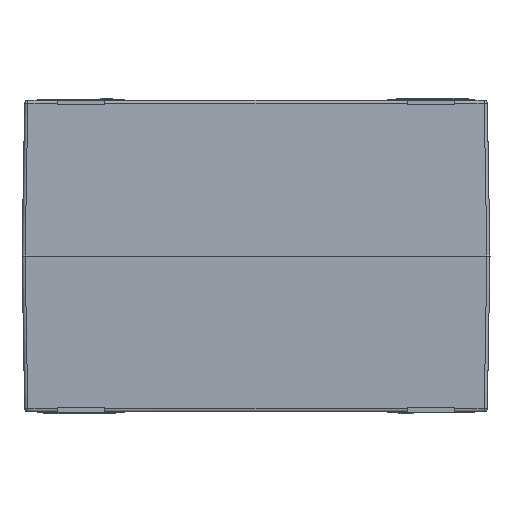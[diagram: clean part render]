
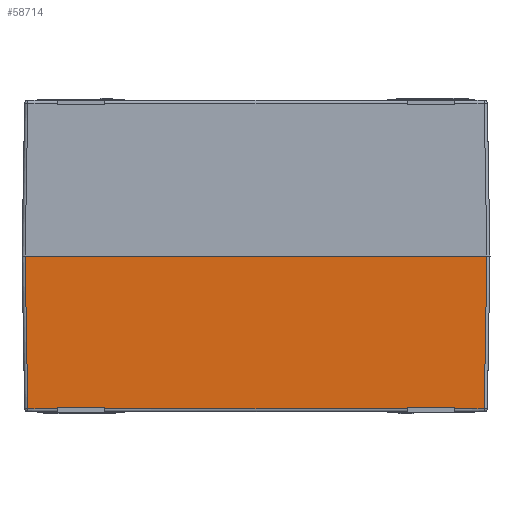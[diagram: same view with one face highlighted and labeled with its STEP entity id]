
A CAD part, front view. The second image highlights one B-rep face of the part: STEP entity #58714.
In plain terms, the highlighted planar face has unit normal (0, -1, -0.018) as drawn and (0, -1, 0.017) by its records, which use the part's own axes.
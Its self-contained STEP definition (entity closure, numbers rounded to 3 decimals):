
#2142 = ORIENTED_EDGE ( 'NONE', *, *, #48084, .F. ) ;
#2334 = EDGE_CURVE ( 'NONE', #63172, #7776, #29989, .T. ) ;
#2383 = VECTOR ( 'NONE', #61563, 1000. ) ;
#3006 = ORIENTED_EDGE ( 'NONE', *, *, #2334, .T. ) ;
#3357 = LINE ( 'NONE', #12882, #28833 ) ;
#5611 = FACE_OUTER_BOUND ( 'NONE', #29193, .T. ) ;
#6701 = DIRECTION ( 'NONE',  ( 0., -1., 0.017 ) ) ;
#7776 = VERTEX_POINT ( 'NONE', #56958 ) ;
#8056 = DIRECTION ( 'NONE',  ( -1., 0., 0. ) ) ;
#10156 = EDGE_CURVE ( 'NONE', #45520, #64153, #56703, .T. ) ;
#10654 = DIRECTION ( 'NONE',  ( 0.004, -0.017, -1. ) ) ;
#10947 = ORIENTED_EDGE ( 'NONE', *, *, #40642, .T. ) ;
#11190 = CARTESIAN_POINT ( 'NONE',  ( 48.443, -72.844, 49.017 ) ) ;
#11402 = VERTEX_POINT ( 'NONE', #11190 ) ;
#12882 = CARTESIAN_POINT ( 'NONE',  ( 75., -72.844, 49.017 ) ) ;
#13593 = ORIENTED_EDGE ( 'NONE', *, *, #27205, .T. ) ;
#14737 = CARTESIAN_POINT ( 'NONE',  ( -48.443, -72.844, 49.017 ) ) ;
#16251 = DIRECTION ( 'NONE',  ( -1., 0., 0. ) ) ;
#16725 = VERTEX_POINT ( 'NONE', #14737 ) ;
#16817 = DIRECTION ( 'NONE',  ( -1., 0., 0. ) ) ;
#16900 = VECTOR ( 'NONE', #25744, 1000. ) ;
#17283 = LINE ( 'NONE', #42232, #41196 ) ;
#17326 = ORIENTED_EDGE ( 'NONE', *, *, #64804, .T. ) ;
#17647 = VERTEX_POINT ( 'NONE', #44074 ) ;
#17668 = ORIENTED_EDGE ( 'NONE', *, *, #40736, .T. ) ;
#18951 = LINE ( 'NONE', #27307, #46088 ) ;
#19147 = CARTESIAN_POINT ( 'NONE',  ( 63.554, -72.855, 48.4 ) ) ;
#19785 = CARTESIAN_POINT ( 'NONE',  ( -73.145, -72.844, 49.017 ) ) ;
#20751 = DIRECTION ( 'NONE',  ( 0.004, -0.017, -1. ) ) ;
#20858 = LINE ( 'NONE', #57080, #46412 ) ;
#21285 = VERTEX_POINT ( 'NONE', #65879 ) ;
#21382 = CARTESIAN_POINT ( 'NONE',  ( -73.145, -72.844, 49.017 ) ) ;
#22314 = LINE ( 'NONE', #51307, #61483 ) ;
#23715 = AXIS2_PLACEMENT_3D ( 'NONE', #37209, #6701, #42365 ) ;
#25028 = LINE ( 'NONE', #19785, #52241 ) ;
#25333 = CARTESIAN_POINT ( 'NONE',  ( 75., -73.7, 0. ) ) ;
#25744 = DIRECTION ( 'NONE',  ( -0.017, 0.017, 1. ) ) ;
#26804 = CARTESIAN_POINT ( 'NONE',  ( -48.446, -72.855, 48.4 ) ) ;
#27205 = EDGE_CURVE ( 'NONE', #43983, #27531, #64553, .T. ) ;
#27307 = CARTESIAN_POINT ( 'NONE',  ( 63.554, -72.855, 48.4 ) ) ;
#27531 = VERTEX_POINT ( 'NONE', #21382 ) ;
#28382 = VECTOR ( 'NONE', #43675, 1000. ) ;
#28833 = VECTOR ( 'NONE', #57294, 1000. ) ;
#29193 = EDGE_LOOP ( 'NONE', ( #2142, #17326, #49261, #29682, #49694, #3006, #29432, #13593, #37821, #66003, #10947, #17668 ) ) ;
#29432 = ORIENTED_EDGE ( 'NONE', *, *, #58587, .F. ) ;
#29682 = ORIENTED_EDGE ( 'NONE', *, *, #44571, .T. ) ;
#29989 = LINE ( 'NONE', #53272, #28382 ) ;
#30421 = LINE ( 'NONE', #61541, #54406 ) ;
#31987 = DIRECTION ( 'NONE',  ( 0.004, 0.017, 1. ) ) ;
#32245 = DIRECTION ( 'NONE',  ( 0.004, 0.017, 1. ) ) ;
#36984 = PLANE ( 'NONE',  #23715 ) ;
#37209 = CARTESIAN_POINT ( 'NONE',  ( 75., -73.7, 0. ) ) ;
#37383 = VECTOR ( 'NONE', #8056, 1000. ) ;
#37821 = ORIENTED_EDGE ( 'NONE', *, *, #61505, .T. ) ;
#40642 = EDGE_CURVE ( 'NONE', #45520, #17647, #56021, .T. ) ;
#40668 = EDGE_CURVE ( 'NONE', #11402, #21285, #30421, .T. ) ;
#40736 = EDGE_CURVE ( 'NONE', #17647, #43498, #20858, .T. ) ;
#41196 = VECTOR ( 'NONE', #16817, 1000. ) ;
#42232 = CARTESIAN_POINT ( 'NONE',  ( 75., -72.855, 48.4 ) ) ;
#42365 = DIRECTION ( 'NONE',  ( 0., -0.017, -1. ) ) ;
#43292 = CARTESIAN_POINT ( 'NONE',  ( 75., -72.844, 49.017 ) ) ;
#43498 = VERTEX_POINT ( 'NONE', #45660 ) ;
#43675 = DIRECTION ( 'NONE',  ( -1., 0., 0. ) ) ;
#43983 = VERTEX_POINT ( 'NONE', #56563 ) ;
#44074 = CARTESIAN_POINT ( 'NONE',  ( 73.145, -72.844, 49.017 ) ) ;
#44502 = CARTESIAN_POINT ( 'NONE',  ( -48.446, -72.855, 48.4 ) ) ;
#44571 = EDGE_CURVE ( 'NONE', #11402, #16725, #3357, .T. ) ;
#45210 = DIRECTION ( 'NONE',  ( -0.017, -0.017, -1. ) ) ;
#45520 = VERTEX_POINT ( 'NONE', #63550 ) ;
#45660 = CARTESIAN_POINT ( 'NONE',  ( 63.557, -72.844, 49.017 ) ) ;
#46088 = VECTOR ( 'NONE', #32245, 1000. ) ;
#46412 = VECTOR ( 'NONE', #16251, 1000. ) ;
#48084 = EDGE_CURVE ( 'NONE', #62847, #43498, #18951, .T. ) ;
#48243 = LINE ( 'NONE', #26804, #60209 ) ;
#49261 = ORIENTED_EDGE ( 'NONE', *, *, #40668, .F. ) ;
#49694 = ORIENTED_EDGE ( 'NONE', *, *, #61766, .F. ) ;
#51307 = CARTESIAN_POINT ( 'NONE',  ( -63.557, -72.844, 49.017 ) ) ;
#52241 = VECTOR ( 'NONE', #45210, 1000. ) ;
#53272 = CARTESIAN_POINT ( 'NONE',  ( 75., -72.855, 48.4 ) ) ;
#54406 = VECTOR ( 'NONE', #10654, 1000. ) ;
#55254 = CARTESIAN_POINT ( 'NONE',  ( -74., -73.7, 0. ) ) ;
#56021 = LINE ( 'NONE', #56436, #16900 ) ;
#56436 = CARTESIAN_POINT ( 'NONE',  ( 74., -73.7, 0. ) ) ;
#56563 = CARTESIAN_POINT ( 'NONE',  ( -63.557, -72.844, 49.017 ) ) ;
#56703 = LINE ( 'NONE', #25333, #2383 ) ;
#56958 = CARTESIAN_POINT ( 'NONE',  ( -63.554, -72.855, 48.4 ) ) ;
#57080 = CARTESIAN_POINT ( 'NONE',  ( 75., -72.844, 49.017 ) ) ;
#57294 = DIRECTION ( 'NONE',  ( -1., 0., 0. ) ) ;
#58587 = EDGE_CURVE ( 'NONE', #43983, #7776, #22314, .T. ) ;
#58714 = ADVANCED_FACE ( 'NONE', ( #5611 ), #36984, .T. ) ;
#60209 = VECTOR ( 'NONE', #31987, 1000. ) ;
#61483 = VECTOR ( 'NONE', #20751, 1000. ) ;
#61505 = EDGE_CURVE ( 'NONE', #27531, #64153, #25028, .T. ) ;
#61541 = CARTESIAN_POINT ( 'NONE',  ( 48.443, -72.844, 49.017 ) ) ;
#61563 = DIRECTION ( 'NONE',  ( -1., 0., 0. ) ) ;
#61766 = EDGE_CURVE ( 'NONE', #63172, #16725, #48243, .T. ) ;
#62847 = VERTEX_POINT ( 'NONE', #19147 ) ;
#63172 = VERTEX_POINT ( 'NONE', #44502 ) ;
#63550 = CARTESIAN_POINT ( 'NONE',  ( 74., -73.7, 0. ) ) ;
#64153 = VERTEX_POINT ( 'NONE', #55254 ) ;
#64553 = LINE ( 'NONE', #43292, #37383 ) ;
#64804 = EDGE_CURVE ( 'NONE', #62847, #21285, #17283, .T. ) ;
#65879 = CARTESIAN_POINT ( 'NONE',  ( 48.446, -72.855, 48.4 ) ) ;
#66003 = ORIENTED_EDGE ( 'NONE', *, *, #10156, .F. ) ;
